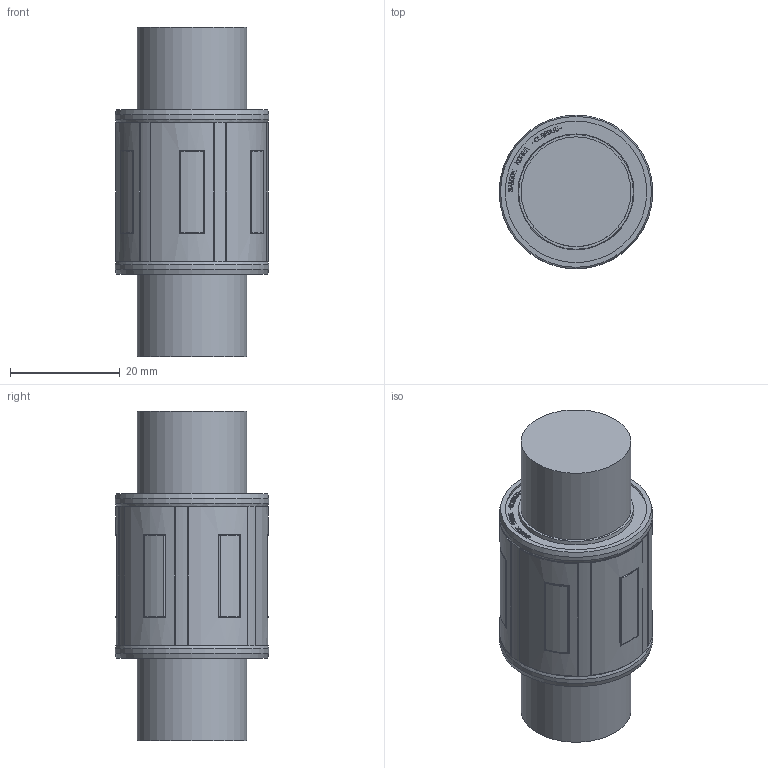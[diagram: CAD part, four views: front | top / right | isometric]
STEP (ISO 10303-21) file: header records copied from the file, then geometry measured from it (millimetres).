
FILE_DESCRIPTION(/* description */ (''),/* implementation_level */ '2;1');
FILE_NAME(/* name */ 'C:\Users\조경제\OneDrive - mysamick.com\바탕 화면\STP\STP_rev1\CLB20UU.stp',/* time_stamp */ '2025-02-05T13:35:43+09:00',/* author */ ('조경제'),/* organization */ (''),/* preprocessor_version */ 'ST-DEVELOPER v17',/* originating_system */ 'Autodesk Inventor 2019',/* authorisation */ '');
FILE_SCHEMA (('AUTOMOTIVE_DESIGN { 1 0 10303 214 3 1 1 }'));
Length unit declared in the file: millimetre
Products named in the file (1): CLB20UU
Bounding box: 28 x 28 x 60 mm (x, y, z)
Volume: 27391.5 mm3; surface area: 6236.8 mm2
Topology: 1 solids, 1 shells, 1112 faces, 3052 edges, 2022 vertices
Faces by surface type: bspline 708, plane 332, cylinder 50, torus 14, cone 8
Full cylindrical faces by diameter (mm): 20 x2, 26 x2, 26.1 x2, 28 x2
Entity records: 38633 total; most frequent: CARTESIAN_POINT 13861, ORIENTED_EDGE 6104, EDGE_CURVE 3052, DIRECTION 2710, VERTEX_POINT 2022, LINE 1420, VECTOR 1420, B_SPLINE_CURVE_WITH_KNOTS 1392
